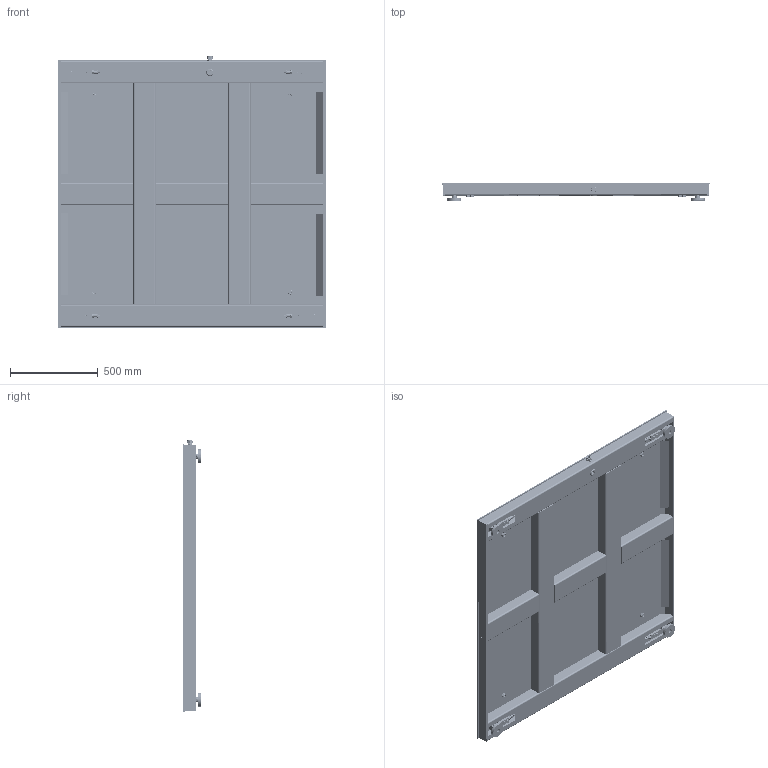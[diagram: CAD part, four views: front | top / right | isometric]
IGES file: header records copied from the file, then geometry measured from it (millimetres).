
Start section: SolidWorks IGES file using analytic representation for surfaces
Global section: file name: C:\0_Work\SolidWorks\~0_B-TEK Floor Scale\FS Series Floor Scales\HIFS-6060 Series.IGS; native system: SolidWorks 2017; preprocessor: SolidWorks 2017; author: vach01; date: 191017.083418; units: inch
Bounding box: 1524.01 x 105.36 x 1546.27 mm (x, y, z)
Surface area: 9350135.1 mm2 (no closed solid volume)
Topology: 0 solids, 0 shells, 19708 faces, 176497 edges, 176449 vertices
Faces by surface type: bspline 15054, revolution 4654
